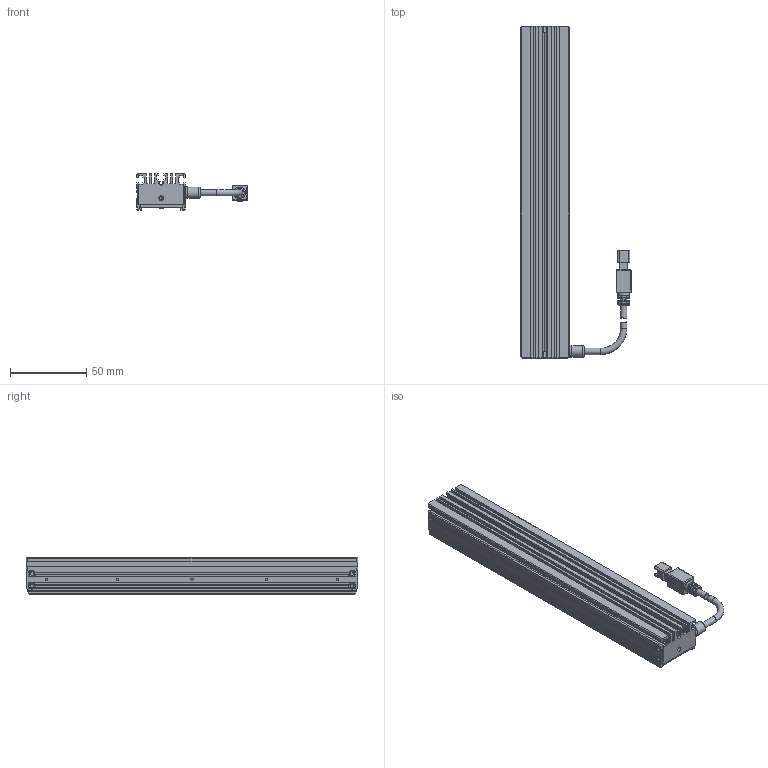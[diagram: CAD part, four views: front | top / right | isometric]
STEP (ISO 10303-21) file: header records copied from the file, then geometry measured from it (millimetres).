
FILE_DESCRIPTION (( 'STEP AP203' ), '1' );
FILE_NAME ('OPT-ILI21832-IR-V1.0U尨砩芞.STEP', '2025-01-18T08:00:08', ( '' ), ( '' ), 'SwSTEP 2.0', 'SolidWorks 2016', '' );
FILE_SCHEMA (( 'CONFIG_CONTROL_DESIGN' ));
Length unit declared in the file: millimetre
Products named in the file (1): OPT-ILI21832-IR-V1.0U尨砩芞
Bounding box: 72.6 x 218 x 24 mm (x, y, z)
Volume: 132705.6 mm3; surface area: 56799.5 mm2
Topology: 5 solids, 15 shells, 643 faces, 1657 edges, 1065 vertices
Faces by surface type: plane 441, cylinder 142, cone 30, bspline 20, torus 10
Full cylindrical faces by diameter (mm): 1.1 x2, 1.4 x4, 1.6 x17, 1.8 x2, 2 x7, 2.4 x7, 2.5 x2, 2.6 x2, 3 x2, 3.5 x1, 4.1 x3, 7.5 x2, 8 x1
Entity records: 19501 total; most frequent: CARTESIAN_POINT 4406, ORIENTED_EDGE 3082, DIRECTION 2992, EDGE_CURVE 1541, VECTOR 1070, LINE 1070, VERTEX_POINT 1033, AXIS2_PLACEMENT_3D 961
